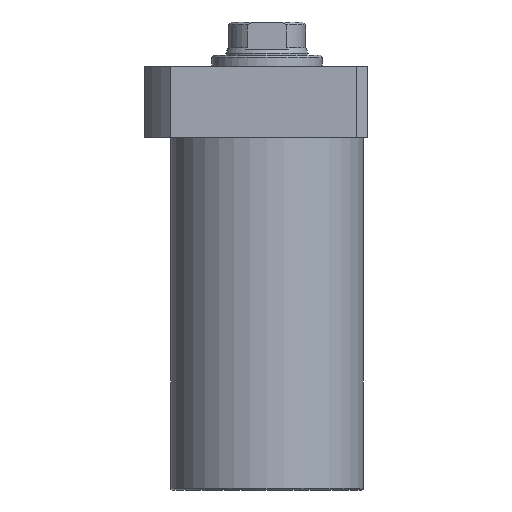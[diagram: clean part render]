
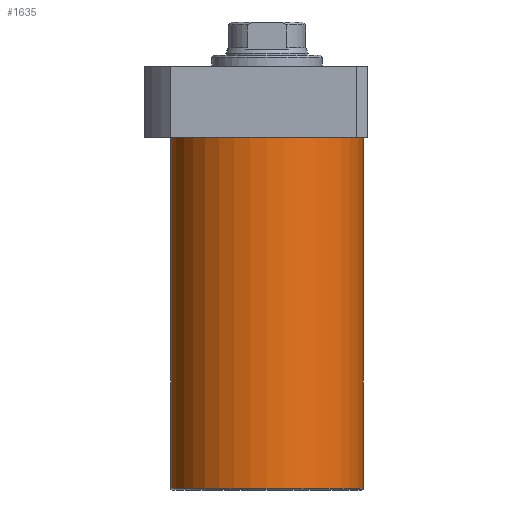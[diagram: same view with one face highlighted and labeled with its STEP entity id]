
A CAD part, front view. The second image highlights one B-rep face of the part: STEP entity #1635.
In plain terms, the highlighted cylindrical face has radius 52.5 mm (diameter 105 mm), a partial arc.
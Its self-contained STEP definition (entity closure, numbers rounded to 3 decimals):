
#8 = CARTESIAN_POINT ( 'NONE',  ( 0., 0., -19.5 ) ) ;
#89 = ORIENTED_EDGE ( 'NONE', *, *, #266, .T. ) ;
#132 = AXIS2_PLACEMENT_3D ( 'NONE', #8, #1061, #1555 ) ;
#140 = ORIENTED_EDGE ( 'NONE', *, *, #1292, .T. ) ;
#177 = ORIENTED_EDGE ( 'NONE', *, *, #1784, .T. ) ;
#266 = EDGE_CURVE ( 'NONE', #1451, #816, #1505, .T. ) ;
#274 = LINE ( 'NONE', #884, #1409 ) ;
#324 = DIRECTION ( 'NONE',  ( 1., 0., 0. ) ) ;
#327 = CARTESIAN_POINT ( 'NONE',  ( 52.5, 0., -19.5 ) ) ;
#416 = CIRCLE ( 'NONE', #132, 52.5 ) ;
#426 = CARTESIAN_POINT ( 'NONE',  ( -52.5, 0., -210.5 ) ) ;
#480 = EDGE_CURVE ( 'NONE', #1451, #1829, #274, .T. ) ;
#519 = ORIENTED_EDGE ( 'NONE', *, *, #480, .F. ) ;
#636 = CARTESIAN_POINT ( 'NONE',  ( 52.5, 0., -210.5 ) ) ;
#646 = VERTEX_POINT ( 'NONE', #327 ) ;
#669 = DIRECTION ( 'NONE',  ( -1., 0., 0. ) ) ;
#720 = CYLINDRICAL_SURFACE ( 'NONE', #935, 52.5 ) ;
#750 = VECTOR ( 'NONE', #1297, 1000. ) ;
#770 = CARTESIAN_POINT ( 'NONE',  ( 0., 0., -211.5 ) ) ;
#816 = VERTEX_POINT ( 'NONE', #636 ) ;
#884 = CARTESIAN_POINT ( 'NONE',  ( -52.5, 0., -211.5 ) ) ;
#935 = AXIS2_PLACEMENT_3D ( 'NONE', #770, #1267, #324 ) ;
#996 = DIRECTION ( 'NONE',  ( 0., 0., 1. ) ) ;
#1061 = DIRECTION ( 'NONE',  ( 0., 0., -1. ) ) ;
#1267 = DIRECTION ( 'NONE',  ( 0., 0., 1. ) ) ;
#1292 = EDGE_CURVE ( 'NONE', #816, #646, #1805, .T. ) ;
#1297 = DIRECTION ( 'NONE',  ( 0., 0., 1. ) ) ;
#1380 = CARTESIAN_POINT ( 'NONE',  ( -52.5, 0., -19.5 ) ) ;
#1409 = VECTOR ( 'NONE', #1954, 1000. ) ;
#1451 = VERTEX_POINT ( 'NONE', #426 ) ;
#1505 = CIRCLE ( 'NONE', #1564, 52.5 ) ;
#1555 = DIRECTION ( 'NONE',  ( 1., 0., 0. ) ) ;
#1564 = AXIS2_PLACEMENT_3D ( 'NONE', #1614, #996, #669 ) ;
#1614 = CARTESIAN_POINT ( 'NONE',  ( 0., 0., -210.5 ) ) ;
#1635 = ADVANCED_FACE ( 'NONE', ( #1946 ), #720, .T. ) ;
#1784 = EDGE_CURVE ( 'NONE', #646, #1829, #416, .T. ) ;
#1805 = LINE ( 'NONE', #1898, #750 ) ;
#1829 = VERTEX_POINT ( 'NONE', #1380 ) ;
#1847 = EDGE_LOOP ( 'NONE', ( #519, #89, #140, #177 ) ) ;
#1898 = CARTESIAN_POINT ( 'NONE',  ( 52.5, 0., -211.5 ) ) ;
#1946 = FACE_OUTER_BOUND ( 'NONE', #1847, .T. ) ;
#1954 = DIRECTION ( 'NONE',  ( 0., 0., 1. ) ) ;
